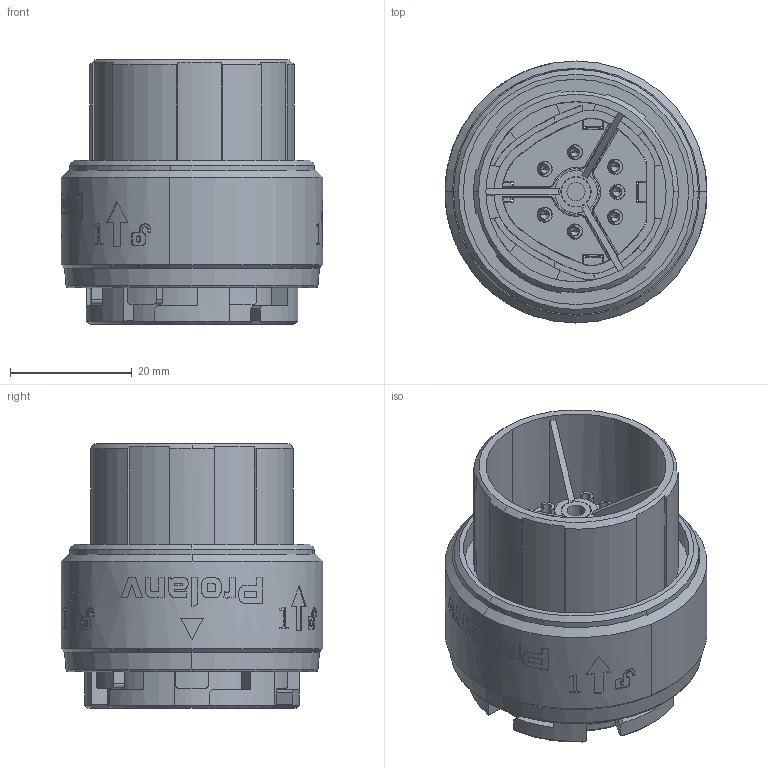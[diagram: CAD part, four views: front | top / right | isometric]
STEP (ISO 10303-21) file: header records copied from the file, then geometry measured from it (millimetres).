
FILE_DESCRIPTION((''),'2;1');
FILE_NAME('2D_PAW0910C0001_SW0002','2023-07-15T13:08:56',('Prolanv-Henry'),(''),'CREO PARAMETRIC BY PTC INC, 2023073','CREO PARAMETRIC BY PTC INC, 2023073','');
FILE_SCHEMA(('CONFIG_CONTROL_DESIGN'));
Length unit declared in the file: millimetre
Products named in the file (1): 2D_PAW0910C0001_SW0002
Bounding box: 43 x 43 x 43.4 mm (x, y, z)
Volume: 23567.2 mm3; surface area: 28072.2 mm2
Topology: 1 solids, 1 shells, 1181 faces, 3352 edges, 2201 vertices
Faces by surface type: plane 479, cylinder 443, cone 106, extrusion 93, torus 40, bspline 20
Entity records: 44304 total; most frequent: CARTESIAN_POINT 13582, ORIENTED_EDGE 6648, DIRECTION 6168, EDGE_CURVE 3324, AXIS2_PLACEMENT_3D 2270, VERTEX_POINT 2201, VECTOR 1628, LINE 1535
